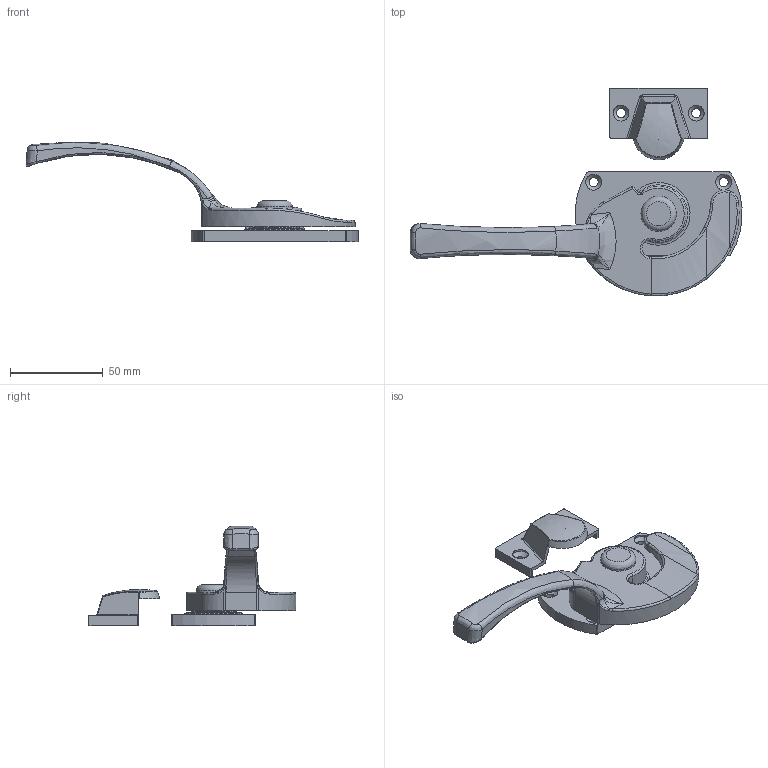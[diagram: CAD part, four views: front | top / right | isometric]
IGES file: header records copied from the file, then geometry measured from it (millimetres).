
Global section: file name: DR_D-1114-1; native system: Autodesk Inventor 2015; preprocessor: unknown; author: Administrator; date: 20170725.085602; units: millimetre
Bounding box: 178.75 x 111.93 x 53.51 mm (x, y, z)
Volume: 69795 mm3; surface area: 31401.7 mm2
Topology: 5 solids, 6 shells, 195 faces, 500 edges, 316 vertices
Faces by surface type: bspline 195
